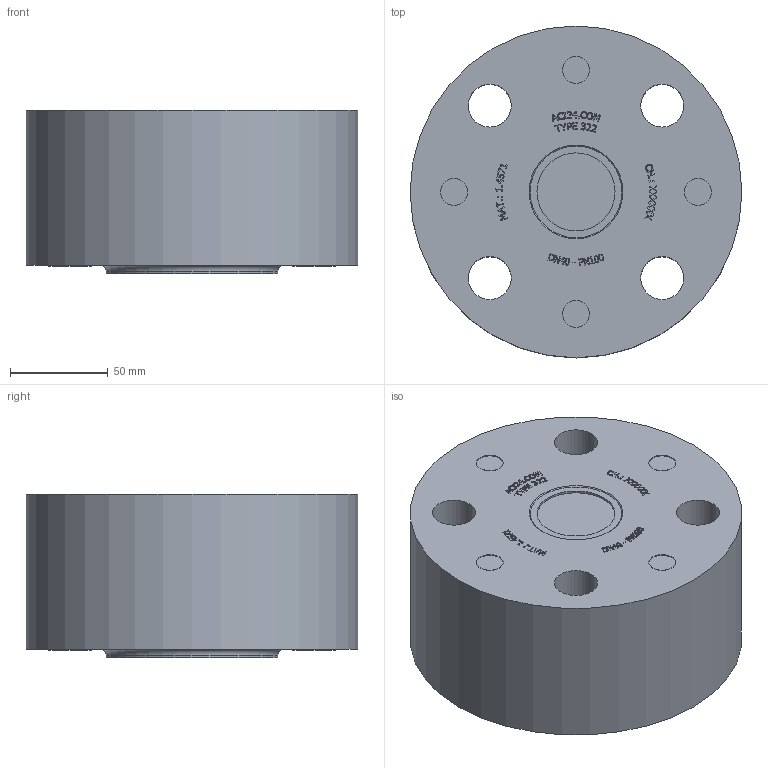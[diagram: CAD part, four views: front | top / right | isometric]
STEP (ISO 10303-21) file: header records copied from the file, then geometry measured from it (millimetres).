
FILE_DESCRIPTION(/* description */ ('ACI TYPE 322 DN 40 PN100'),/* implementation_level */ '2;1');
FILE_NAME(/* name */ 'W:\Konstruktion_ACI\322\ACI-40-100.stp',/* time_stamp */ '2020-04-21T10:58:41+02:00',/* author */ ('Götz'),/* organization */ ('ACI Industriearmaturen GmbH info@aci24.com www.aci24.com'),/* preprocessor_version */ 'ST-DEVELOPER v16.1',/* originating_system */ 'Autodesk Inventor 2016',/* authorisation */ 'ACI Industriearmaturen GmbH info@aci24.com www.aci24.com');
FILE_SCHEMA (('CONFIG_CONTROL_DESIGN'));
Length unit declared in the file: centimetre
Products named in the file (1): ACI-40-100
Bounding box: 170 x 170 x 84 mm (x, y, z)
Volume: 1703594.9 mm3; surface area: 108789.2 mm2
Topology: 1 solids, 1 shells, 694 faces, 1855 edges, 1240 vertices
Faces by surface type: plane 486, bspline 190, cylinder 12, torus 5, cone 1
Full cylindrical faces by diameter (mm): 13.835 x4, 22 x4, 40 x2, 88 x1, 170 x1
Entity records: 22915 total; most frequent: CARTESIAN_POINT 6220, ORIENTED_EDGE 3652, DIRECTION 2491, EDGE_CURVE 1826, LINE 1411, VECTOR 1411, VERTEX_POINT 1229, EDGE_LOOP 797
